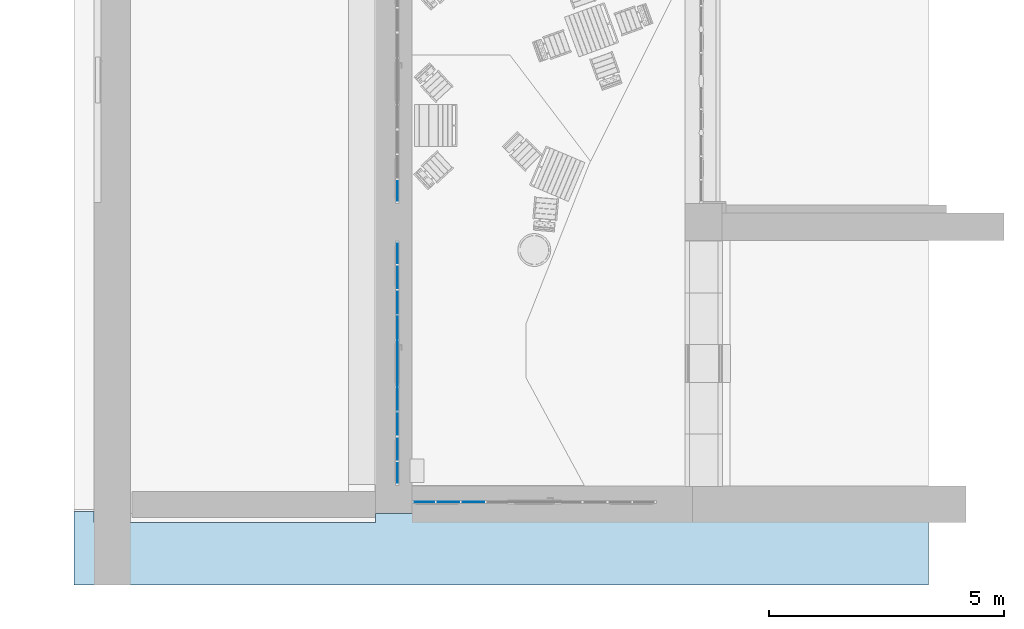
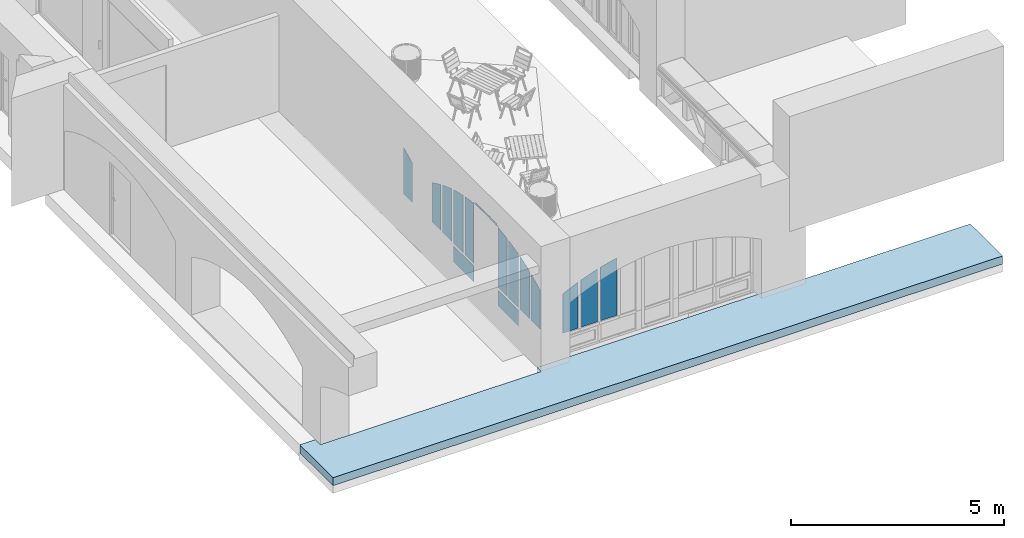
# One storey, part 50 of 88: 15 plates, 1 slab, 3 elements without a shape of their own.
"""IFC2X3 building model written with IfcOpenShell, lengths in millimetres."""

from ifc_helpers import new_model, entity, si_unit, converted_unit, derived_unit, direction, frame, frame_2d, origin, place, context, subcontext, project, spatial, polyline, circle_curve, parameter, trimmed, segment, composite_curve, rectangle, outline, extrude, face_set, surface_model, source, transform, mapped, material, layer, layer_set, layer_usage, type_object, type_shapes, element, aggregate, save


model = new_model("IFC2X3")

# Units and contexts
model_context = context("Model", 3, precision=0.01, world=origin(), true_north=direction((6.123031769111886e-17, 1.0)))
body_context = subcontext(model_context, "Body", "Model", "MODEL_VIEW")
ifc_project = project(units=[si_unit("LENGTHUNIT", "METRE", prefix="MILLI"), si_unit("AREAUNIT", "SQUARE_METRE"), si_unit("VOLUMEUNIT", "CUBIC_METRE"), converted_unit("PLANEANGLEUNIT", "DEGREE", entity("IfcPlaneAngleMeasure", 0.017453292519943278), si_unit("PLANEANGLEUNIT", "RADIAN"), dimensions=[0, 0, 0, 0, 0, 0, 0]), si_unit("MASSUNIT", "GRAM", prefix="KILO"), derived_unit("MASSDENSITYUNIT", [(si_unit("MASSUNIT", "GRAM", prefix="KILO"), 1), (si_unit("LENGTHUNIT", "METRE"), -3)]), derived_unit("IONCONCENTRATIONUNIT", [(si_unit("MASSUNIT", "GRAM", prefix="KILO"), 1), (si_unit("LENGTHUNIT", "METRE"), -3)]), derived_unit("MOMENTOFINERTIAUNIT", [(si_unit("LENGTHUNIT", "METRE"), 4)]), si_unit("TIMEUNIT", "SECOND"), si_unit("FREQUENCYUNIT", "HERTZ"), si_unit("THERMODYNAMICTEMPERATUREUNIT", "DEGREE_CELSIUS"), derived_unit("THERMALTRANSMITTANCEUNIT", [(si_unit("MASSUNIT", "GRAM", prefix="KILO"), 1), (si_unit("THERMODYNAMICTEMPERATUREUNIT", "KELVIN"), -1), (si_unit("TIMEUNIT", "SECOND"), -3)]), derived_unit("THERMALCONDUCTANCEUNIT", [(si_unit("MASSUNIT", "GRAM", prefix="KILO"), 1), (si_unit("THERMODYNAMICTEMPERATUREUNIT", "KELVIN"), -1), (si_unit("TIMEUNIT", "SECOND"), -3), (si_unit("LENGTHUNIT", "METRE"), 1)]), derived_unit("VOLUMETRICFLOWRATEUNIT", [(si_unit("LENGTHUNIT", "METRE", prefix="DECI"), 3), (si_unit("TIMEUNIT", "SECOND"), -1)]), derived_unit("MASSFLOWRATEUNIT", [(si_unit("MASSUNIT", "GRAM", prefix="KILO"), 1), (si_unit("TIMEUNIT", "SECOND"), -1)]), derived_unit("ROTATIONALFREQUENCYUNIT", [(si_unit("TIMEUNIT", "SECOND"), -1)]), si_unit("ELECTRICCURRENTUNIT", "AMPERE"), si_unit("ELECTRICVOLTAGEUNIT", "VOLT"), si_unit("POWERUNIT", "WATT"), si_unit("FORCEUNIT", "NEWTON", prefix="KILO"), si_unit("ILLUMINANCEUNIT", "LUX"), si_unit("LUMINOUSFLUXUNIT", "LUMEN"), si_unit("LUMINOUSINTENSITYUNIT", "CANDELA"), si_unit("ENERGYUNIT", "JOULE"), derived_unit("USERDEFINED", [(si_unit("MASSUNIT", "GRAM", prefix="KILO"), -1), (si_unit("LENGTHUNIT", "METRE"), -2), (si_unit("TIMEUNIT", "SECOND"), 3), (si_unit("LUMINOUSFLUXUNIT", "LUMEN"), 1)]), derived_unit("USERDEFINED", [(si_unit("MASSUNIT", "GRAM", prefix="KILO"), 1), (si_unit("TIMEUNIT", "SECOND"), -3), (si_unit("LENGTHUNIT", "METRE"), 3), (si_unit("ELECTRICCURRENTUNIT", "AMPERE"), -2)]), derived_unit("SOUNDPOWERUNIT", [(si_unit("MASSUNIT", "GRAM", prefix="KILO"), 1), (si_unit("TIMEUNIT", "SECOND"), -3), (si_unit("LENGTHUNIT", "METRE"), 2)]), derived_unit("SOUNDPRESSUREUNIT", [(si_unit("MASSUNIT", "GRAM", prefix="KILO"), 1), (si_unit("LENGTHUNIT", "METRE"), -1), (si_unit("TIMEUNIT", "SECOND"), -2)]), derived_unit("LINEARVELOCITYUNIT", [(si_unit("LENGTHUNIT", "METRE"), 1), (si_unit("TIMEUNIT", "SECOND"), -1)]), si_unit("PRESSUREUNIT", "PASCAL"), derived_unit("USERDEFINED", [(si_unit("MASSUNIT", "GRAM", prefix="KILO"), 1), (si_unit("LENGTHUNIT", "METRE"), -2), (si_unit("TIMEUNIT", "SECOND"), -2)]), derived_unit("LINEARFORCEUNIT", [(si_unit("MASSUNIT", "GRAM", prefix="KILO"), 1), (si_unit("TIMEUNIT", "SECOND"), -2)]), derived_unit("PLANARFORCEUNIT", [(si_unit("MASSUNIT", "GRAM", prefix="KILO"), 1), (si_unit("LENGTHUNIT", "METRE"), -1), (si_unit("TIMEUNIT", "SECOND"), -2)]), derived_unit("SPECIFICHEATCAPACITYUNIT", [(si_unit("THERMODYNAMICTEMPERATUREUNIT", "KELVIN"), -1), (si_unit("LENGTHUNIT", "METRE"), 2), (si_unit("TIMEUNIT", "SECOND"), -2)]), derived_unit("HEATFLUXDENSITYUNIT", [(si_unit("MASSUNIT", "GRAM", prefix="KILO"), 1), (si_unit("TIMEUNIT", "SECOND"), -3)]), derived_unit("HEATINGVALUEUNIT", [(si_unit("LENGTHUNIT", "METRE"), 2), (si_unit("TIMEUNIT", "SECOND"), -2)]), derived_unit("VAPORPERMEABILITYUNIT", [(si_unit("LENGTHUNIT", "METRE"), -1), (si_unit("TIMEUNIT", "SECOND"), 1)]), derived_unit("DYNAMICVISCOSITYUNIT", [(si_unit("MASSUNIT", "GRAM", prefix="KILO"), 1), (si_unit("TIMEUNIT", "SECOND"), -1), (si_unit("LENGTHUNIT", "METRE"), -1)]), derived_unit("THERMALEXPANSIONCOEFFICIENTUNIT", [(si_unit("THERMODYNAMICTEMPERATUREUNIT", "KELVIN"), -1)]), derived_unit("MODULUSOFELASTICITYUNIT", [(si_unit("MASSUNIT", "GRAM", prefix="KILO"), 1), (si_unit("LENGTHUNIT", "METRE"), -1), (si_unit("TIMEUNIT", "SECOND"), -2)]), derived_unit("ISOTHERMALMOISTURECAPACITYUNIT", [(si_unit("MASSUNIT", "GRAM", prefix="KILO"), -1), (si_unit("LENGTHUNIT", "METRE"), 3)]), derived_unit("MOISTUREDIFFUSIVITYUNIT", [(si_unit("TIMEUNIT", "SECOND"), -1), (si_unit("LENGTHUNIT", "METRE"), 2)]), derived_unit("MASSPERLENGTHUNIT", [(si_unit("MASSUNIT", "GRAM", prefix="KILO"), 1), (si_unit("LENGTHUNIT", "METRE"), -1)]), derived_unit("THERMALRESISTANCEUNIT", [(si_unit("MASSUNIT", "GRAM", prefix="KILO"), -1), (si_unit("TIMEUNIT", "SECOND"), 3), (si_unit("THERMODYNAMICTEMPERATUREUNIT", "KELVIN"), 1)]), derived_unit("ACCELERATIONUNIT", [(si_unit("LENGTHUNIT", "METRE"), 1), (si_unit("TIMEUNIT", "SECOND"), -2)]), derived_unit("ANGULARVELOCITYUNIT", [(si_unit("TIMEUNIT", "SECOND"), -1), (si_unit("PLANEANGLEUNIT", "RADIAN"), 1)]), derived_unit("LINEARSTIFFNESSUNIT", [(si_unit("MASSUNIT", "GRAM", prefix="KILO"), 1), (si_unit("TIMEUNIT", "SECOND"), -2)]), derived_unit("WARPINGCONSTANTUNIT", [(si_unit("LENGTHUNIT", "METRE"), 6)]), derived_unit("LINEARMOMENTUNIT", [(si_unit("MASSUNIT", "GRAM", prefix="KILO"), 1), (si_unit("LENGTHUNIT", "METRE"), 1), (si_unit("TIMEUNIT", "SECOND"), -2)]), derived_unit("TORQUEUNIT", [(si_unit("MASSUNIT", "GRAM", prefix="KILO"), 1), (si_unit("LENGTHUNIT", "METRE"), 2), (si_unit("TIMEUNIT", "SECOND"), -2)])], contexts=[model_context])

# Site, building, storey
site_placement = place(None, origin())
site = spatial("IfcSite", under=ifc_project, at=site_placement, Name="Default", CompositionType="ELEMENT")
building_placement = place(site_placement, origin())
building = spatial("IfcBuilding", under=site, at=building_placement, Name="Eesti Rahvusraamatukogu hoone renoveerimise projekteerimistööd", CompositionType="ELEMENT")
storey_placement = place(building_placement, origin())
storey = spatial("IfcBuildingStorey", under=building, at=storey_placement, Name="1. korrus", CompositionType="ELEMENT", Elevation=0.0)

# Slab
ifc_material_1 = material(Name="EST. Betoonplaat")
ifc_layer_1 = layer(ifc_material_1, 25.0)
ifc_material_2 = material(Name="EST. Betoon. Armeeritud. Kohtvalu")
ifc_layer_2 = layer(ifc_material_2, 70.0)
ifc_material_3 = material(Name="EST. Soojustus. EPS")
ifc_layer_3 = layer(ifc_material_3, 135.0)
ifc_layer_set = layer_set([ifc_layer_1, ifc_layer_2, ifc_layer_3], Name="Floor:VL-03 - fuajee põrand")
ifc_layer_usage = layer_usage(ifc_layer_set, "AXIS3", "POSITIVE", 0.0)
slab_type = type_object("IfcSlabType", Name="Floor:VL-03 - fuajee põrand", PredefinedType="FLOOR", material=ifc_layer_set)
slab_placement = place(storey_placement, origin())
element("IfcSlab", 1, at=slab_placement, inside=storey, type_object=slab_type, material=ifc_layer_usage, Name="Floor:VL-03 - fuajee põrand", ObjectType="Floor:VL-03 - fuajee põrand", PredefinedType="FLOOR", context=body_context, shape_type="SweptSolid", body=[
    extrude(outline(polyline([(-1098.9598426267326, -6251.266453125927), (458.319947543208, -6251.266453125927), (458.319947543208, -5829.638371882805), (222.31994754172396, -5829.638371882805), (222.31994754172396, 160.3616281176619), (418.3199475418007, 160.3616281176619), (418.3199475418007, 11920.5431968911), (-1098.9598426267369, 11920.5431968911), (-1098.9598426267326, -6251.266453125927)])), frame((-43530.3616281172, -222.319947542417, 0.0), z_axis=(0.0, 0.0, -1.0), x_axis=(0.0, 1.0, 0.0)), (0.0, 0.0, 1.0), 230.00000000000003),
])

# Curtain wall, plates
curtain_wall_type_1 = type_object("IfcCurtainWallType", Name="Curtain Wall:Ak-05", PredefinedType="NOTDEFINED")
curtain_wall_1_placement = place(storey_placement, origin())
curtain_wall_1 = element("IfcCurtainWall", 2, at=curtain_wall_1_placement, inside=storey, type_object=curtain_wall_type_1, Name="Curtain Wall:Ak-05", ObjectType="Curtain Wall:Ak-05")
ifc_material_4 = material(Name="EST. Klaas. 3x. Default")
plate_type_1 = type_object("IfcPlateType", Name="System Panel:Peegelaknad 6-16-4-16-4, paneel", PredefinedType="CURTAIN_PANEL", material=ifc_material_4)
shared_shape_1 = source(origin(), body_context, "Body", "SweptSolid", [
    extrude(rectangle(XDim=450.00000000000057, YDim=944.9999999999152, at=frame_2d((0.0, -5.833333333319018), x_axis=(1.0, 0.0))), frame((5.833333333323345, -5.0, 225.0), z_axis=(0.0, 1.0, 0.0), x_axis=(0.0, 0.0, 1.0)), (0.0, 0.0, 1.0), 10.0),
])
type_shapes(plate_type_1, [shared_shape_1])
plate_1_placement = place(curtain_wall_1_placement, frame((-42905.0, 4437.499999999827, 10.0), z_axis=(0.0, 0.0, 1.0), x_axis=(0.0, -1.0, 0.0)))
plate_1 = element("IfcPlate", 3, at=plate_1_placement, type_object=plate_type_1, material=ifc_material_4, Name="System Panel:Peegelaknad 6-16-4-16-4, paneel", ObjectType="System Panel:Peegelaknad 6-16-4-16-4, paneel", context=body_context, shape_type="MappedRepresentation", body=[
    mapped(shared_shape_1, transform((0.0, 0.0, 0.0), scale=1.0)),
])
plate_type_2 = type_object("IfcPlateType", Name="System Panel:Peegelaknad 6-16-4-16-4, paneel", PredefinedType="CURTAIN_PANEL", material=ifc_material_4)
shared_shape_2 = source(origin(), body_context, "Body", "SweptSolid", [
    extrude(rectangle(XDim=450.00000000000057, YDim=945.0000000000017, at=frame_2d((0.0, 5.833333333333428), x_axis=(1.0, 0.0))), frame((-5.8333333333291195, -5.0, 225.0), z_axis=(0.0, 1.0, 0.0), x_axis=(0.0, 0.0, 1.0)), (0.0, 0.0, 1.0), 10.0),
])
type_shapes(plate_type_2, [shared_shape_2])
plate_2_placement = place(curtain_wall_1_placement, frame((-42905.0, 2342.4999999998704, 10.0), z_axis=(0.0, 0.0, 1.0), x_axis=(0.0, -1.0, 0.0)))
plate_2 = element("IfcPlate", 4, at=plate_2_placement, type_object=plate_type_2, material=ifc_material_4, Name="System Panel:Peegelaknad 6-16-4-16-4, paneel", ObjectType="System Panel:Peegelaknad 6-16-4-16-4, paneel", context=body_context, shape_type="MappedRepresentation", body=[
    mapped(shared_shape_2, transform((0.0, 0.0, 0.0), scale=1.0)),
])
plate_type_3 = type_object("IfcPlateType", Name="System Panel:Peegelaknad 6-16-4-16-4, paneel", PredefinedType="CURTAIN_PANEL", material=ifc_material_4)
shared_shape_3 = source(origin(), body_context, "Body", "SweptSolid", [
    extrude(outline(composite_curve([segment(polyline([(-610.3301409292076, -205.0), (513.3133718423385, -205.0)]), True, "CONTINUOUS"), segment(trimmed(circle_curve(frame_2d((-4323.610707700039, 2335.0), x_axis=(0.9256428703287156, -0.37839830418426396)), 5463.280566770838), [parameter(354.5293230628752)], [parameter(359.2877436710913)], True, "PARAMETER"), True, "CONTINUOUS"), segment(polyline([(707.3469100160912, 205.0), (-610.3301409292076, 205.0)]), True, "CONTINUOUS"), segment(polyline([(-610.3301409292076, 205.0), (-610.3301409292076, -205.0)]), True, "CONTINUOUS")], self_intersect=False)), frame((0.0, -5.0, 610.3301409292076), z_axis=(0.0, 1.0, 0.0), x_axis=(0.0, 0.0, 1.0)), (0.0, 0.0, 1.0), 10.0),
])
type_shapes(plate_type_3, [shared_shape_3])
plate_3_placement = place(curtain_wall_1_placement, frame((-42905.0, 5725.0, 540.0), z_axis=(0.0, 0.0, 1.0), x_axis=(0.0, -1.0, 0.0)))
plate_3 = element("IfcPlate", 5, at=plate_3_placement, type_object=plate_type_3, material=ifc_material_4, Name="System Panel:Peegelaknad 6-16-4-16-4, paneel", ObjectType="System Panel:Peegelaknad 6-16-4-16-4, paneel", context=body_context, shape_type="MappedRepresentation", body=[
    mapped(shared_shape_3, transform((0.0, 0.0, 0.0), scale=1.0)),
])
plate_type_4 = type_object("IfcPlateType", Name="System Panel:Peegelaknad 6-16-4-16-4, paneel", PredefinedType="CURTAIN_PANEL", material=ifc_material_4)
shared_shape_4 = source(origin(), body_context, "Body", "SweptSolid", [
    extrude(outline(composite_curve([segment(polyline([(-715.3148161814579, -225.0), (635.487411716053, -225.0)]), True, "CONTINUOUS"), segment(trimmed(circle_curve(frame_2d((-4428.595382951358, 1825.0), x_axis=(0.9592847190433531, -0.2824408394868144)), 5463.280566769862), [parameter(354.3672571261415)], [parameter(359.3764184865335)], True, "PARAMETER"), True, "CONTINUOUS"), segment(polyline([(795.1422206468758, 225.0), (-715.3148161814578, 225.0)]), True, "CONTINUOUS"), segment(polyline([(-715.3148161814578, 225.0), (-715.3148161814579, -225.0)]), True, "CONTINUOUS")], self_intersect=False)), frame((0.0, -5.0, 715.3148161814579), z_axis=(0.0, 1.0, 0.0), x_axis=(0.0, 0.0, 1.0)), (0.0, 0.0, 1.0), 10.0),
])
type_shapes(plate_type_4, [shared_shape_4])
plate_4_placement = place(curtain_wall_1_placement, frame((-42905.0, 5215.0, 540.0), z_axis=(0.0, 0.0, 1.0), x_axis=(0.0, -1.0, 0.0)))
plate_4 = element("IfcPlate", 6, at=plate_4_placement, type_object=plate_type_4, material=ifc_material_4, Name="System Panel:Peegelaknad 6-16-4-16-4, paneel", ObjectType="System Panel:Peegelaknad 6-16-4-16-4, paneel", context=body_context, shape_type="MappedRepresentation", body=[
    mapped(shared_shape_4, transform((0.0, 0.0, 0.0), scale=1.0)),
])
plate_type_5 = type_object("IfcPlateType", Name="System Panel:Peegelaknad 6-16-4-16-4, paneel", PredefinedType="CURTAIN_PANEL", material=ifc_material_4)
shared_shape_5 = source(origin(), body_context, "Body", "SweptSolid", [
    extrude(outline(composite_curve([segment(polyline([(-794.6219170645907, -225.0), (739.6716748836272, -225.0)]), True, "CONTINUOUS"), segment(trimmed(circle_curve(frame_2d((-4507.902483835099, 1295.0), x_axis=(0.9824581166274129, -0.18648337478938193)), 5463.2805667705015), [parameter(354.5935648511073)], [parameter(359.45306970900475)], True, "PARAMETER"), True, "CONTINUOUS"), segment(polyline([(849.5721592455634, 225.0), (-794.6219170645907, 225.0)]), True, "CONTINUOUS"), segment(polyline([(-794.6219170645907, 225.0), (-794.6219170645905, -225.0)]), True, "CONTINUOUS")], self_intersect=False)), frame((0.0, -5.0, 794.6219170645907), z_axis=(0.0, 1.0, 0.0), x_axis=(0.0, 0.0, 1.0)), (0.0, 0.0, 1.0), 10.0),
])
type_shapes(plate_type_5, [shared_shape_5])
plate_5_placement = place(curtain_wall_1_placement, frame((-42905.0, 4685.0, 540.0), z_axis=(0.0, 0.0, 1.0), x_axis=(0.0, -1.0, 0.0)))
plate_5 = element("IfcPlate", 7, at=plate_5_placement, type_object=plate_type_5, material=ifc_material_4, Name="System Panel:Peegelaknad 6-16-4-16-4, paneel", ObjectType="System Panel:Peegelaknad 6-16-4-16-4, paneel", context=body_context, shape_type="MappedRepresentation", body=[
    mapped(shared_shape_5, transform((0.0, 0.0, 0.0), scale=1.0)),
])
plate_type_6 = type_object("IfcPlateType", Name="System Panel:Peegelaknad 6-16-4-16-4, paneel", PredefinedType="CURTAIN_PANEL", material=ifc_material_4)
shared_shape_6 = source(origin(), body_context, "Body", "SurfaceModel", [
    surface_model("IfcFaceBasedSurfaceModel", [(-245.0, -5.0, 0.0), (170.0, -5.0, 0.0), (170.0, -5.0, 1750.0), (245.0, -5.0, 1750.0), (245.0, -5.0, 1727.0718621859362), (93.20177957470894, -5.0, 1710.979164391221), (-58.08758672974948, -5.0, 1690.6517865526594), (-151.67863011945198, -5.0, 1675.9125069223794), (-245.0, -5.0, 1659.5524430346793), (-245.0, 5.0, 0.0), (-245.0, 5.0, 1659.5524430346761), (-151.67863011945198, 5.0, 1675.9125069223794), (-58.08758672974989, 5.0, 1690.6517865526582), (93.20177957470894, 5.0, 1710.979164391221), (245.0, 5.0, 1727.071862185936), (245.0, 5.0, 1750.0), (170.0, 5.0, 1750.0), (170.0, 5.0, 0.0)], [face_set([[[0, 1, 2, 3, 4, 5, 6, 7, 8]], [[9, 10, 11, 12, 13, 14, 15, 16, 17]], [[1, 0, 9, 17]], [[2, 1, 17, 16]], [[3, 15, 16, 2]], [[4, 14, 15, 3]], [[5, 4, 14, 13]], [[12, 6, 5, 13]], [[7, 6, 12, 11]], [[10, 8, 7, 11]], [[0, 8, 10, 9]]])]),
])
type_shapes(plate_type_6, [shared_shape_6])
plate_6_placement = place(curtain_wall_1_placement, frame((-42905.0, 4135.0, 540.0), z_axis=(0.0, 0.0, 1.0), x_axis=(0.0, -1.0, 0.0)))
plate_6 = element("IfcPlate", 8, at=plate_6_placement, type_object=plate_type_6, material=ifc_material_4, Name="System Panel:Peegelaknad 6-16-4-16-4, paneel", ObjectType="System Panel:Peegelaknad 6-16-4-16-4, paneel", context=body_context, shape_type="MappedRepresentation", body=[
    mapped(shared_shape_6, transform((0.0, 0.0, 0.0), scale=1.0)),
])
plate_type_7 = type_object("IfcPlateType", Name="System Panel:Peegelaknad 6-16-4-16-4, paneel", PredefinedType="CURTAIN_PANEL", material=ifc_material_4)
shared_shape_7 = source(origin(), body_context, "Body", "SurfaceModel", [
    surface_model("IfcFaceBasedSurfaceModel", [(-170.0, -5.0, 0.0), (245.0, -5.0, 0.0), (245.0, -5.0, 1659.5524430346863), (151.67863011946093, -5.0, 1675.9125069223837), (58.08758672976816, -5.0, 1690.6517865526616), (-93.2017795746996, -5.0, 1710.979164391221), (-245.0, -5.0, 1727.071862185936), (-245.0, -5.0, 1750.0), (-170.0, -5.0, 1750.0), (-170.0, 5.0, 0.0), (245.0, 5.0, 0.0), (245.0, 5.0, 1659.552443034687), (151.67863011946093, 5.0, 1675.9125069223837), (58.08758672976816, 5.0, 1690.6517865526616), (-93.2017795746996, 5.0, 1710.979164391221), (-245.0, 5.0, 1727.071862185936), (-245.0, 5.0, 1750.0), (-170.0, 5.0, 1750.0)], [face_set([[[0, 1, 2, 3, 4, 5, 6, 7, 8]], [[9, 10, 11, 12, 13, 14, 15, 16, 17]], [[1, 0, 9, 10]], [[2, 1, 10, 11]], [[3, 2, 11, 12]], [[13, 4, 3, 12]], [[4, 13, 14, 5]], [[15, 6, 5, 14]], [[7, 16, 15, 6]], [[8, 17, 16, 7]], [[0, 8, 17, 9]]])]),
])
type_shapes(plate_type_7, [shared_shape_7])
plate_7_placement = place(curtain_wall_1_placement, frame((-42905.0, 2645.0, 540.0), z_axis=(0.0, 0.0, 1.0), x_axis=(0.0, -1.0, 0.0)))
plate_7 = element("IfcPlate", 9, at=plate_7_placement, type_object=plate_type_7, material=ifc_material_4, Name="System Panel:Peegelaknad 6-16-4-16-4, paneel", ObjectType="System Panel:Peegelaknad 6-16-4-16-4, paneel", context=body_context, shape_type="MappedRepresentation", body=[
    mapped(shared_shape_7, transform((0.0, 0.0, 0.0), scale=1.0)),
])
plate_type_8 = type_object("IfcPlateType", Name="System Panel:Peegelaknad 6-16-4-16-4, paneel", PredefinedType="CURTAIN_PANEL", material=ifc_material_4)
shared_shape_8 = source(origin(), body_context, "Body", "SweptSolid", [
    extrude(outline(composite_curve([segment(polyline([(-794.621917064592, 225.0), (-794.621917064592, -225.0)]), True, "CONTINUOUS"), segment(polyline([(-794.621917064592, -225.0), (739.6716748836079, -225.0)]), True, "CONTINUOUS"), segment(trimmed(circle_curve(frame_2d((-4507.902483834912, 1295.0), x_axis=(0.9592847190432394, -0.2824408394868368)), 5463.280566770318), [parameter(0.25187197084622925)], [parameter(5.111376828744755)], True, "PARAMETER"), True, "CONTINUOUS"), segment(polyline([(849.5721592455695, 225.0), (-794.621917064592, 225.0)]), True, "CONTINUOUS")], self_intersect=False)), frame((0.0, -5.0, 794.621917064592), z_axis=(0.0, -1.0, 0.0), x_axis=(0.0, 0.0, 1.0)), (0.0, 0.0, -1.0), 10.0),
])
type_shapes(plate_type_8, [shared_shape_8])
plate_8_placement = place(curtain_wall_1_placement, frame((-42905.0, 2095.0, 540.0), z_axis=(0.0, 0.0, 1.0), x_axis=(0.0, -1.0, 0.0)))
plate_8 = element("IfcPlate", 10, at=plate_8_placement, type_object=plate_type_8, material=ifc_material_4, Name="System Panel:Peegelaknad 6-16-4-16-4, paneel", ObjectType="System Panel:Peegelaknad 6-16-4-16-4, paneel", context=body_context, shape_type="MappedRepresentation", body=[
    mapped(shared_shape_8, transform((0.0, 0.0, 0.0), scale=1.0)),
])
plate_type_9 = type_object("IfcPlateType", Name="System Panel:Peegelaknad 6-16-4-16-4, paneel", PredefinedType="CURTAIN_PANEL", material=ifc_material_4)
shared_shape_9 = source(origin(), body_context, "Body", "SweptSolid", [
    extrude(outline(composite_curve([segment(polyline([(-715.3148161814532, 225.0), (-715.3148161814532, -225.0)]), True, "CONTINUOUS"), segment(polyline([(-715.3148161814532, -225.0), (635.4874117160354, -225.0)]), True, "CONTINUOUS"), segment(trimmed(circle_curve(frame_2d((-4428.59538295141, 1825.0), x_axis=(0.9256428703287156, -0.3783983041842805)), 5463.280566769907), [parameter(0.19582649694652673)], [parameter(5.204987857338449)], True, "PARAMETER"), True, "CONTINUOUS"), segment(polyline([(795.1422206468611, 225.0), (-715.3148161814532, 225.0)]), True, "CONTINUOUS")], self_intersect=False)), frame((0.0, -5.0, 715.3148161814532), z_axis=(0.0, -1.0, 0.0), x_axis=(0.0, 0.0, 1.0)), (0.0, 0.0, -1.0), 10.0),
])
type_shapes(plate_type_9, [shared_shape_9])
plate_9_placement = place(curtain_wall_1_placement, frame((-42905.0, 1565.0, 540.0), z_axis=(0.0, 0.0, 1.0), x_axis=(0.0, -1.0, 0.0)))
plate_9 = element("IfcPlate", 11, at=plate_9_placement, type_object=plate_type_9, material=ifc_material_4, Name="System Panel:Peegelaknad 6-16-4-16-4, paneel", ObjectType="System Panel:Peegelaknad 6-16-4-16-4, paneel", context=body_context, shape_type="MappedRepresentation", body=[
    mapped(shared_shape_9, transform((0.0, 0.0, 0.0), scale=1.0)),
])

# Curtain wall, plate
curtain_wall_type_2 = type_object("IfcCurtainWallType", Name="Curtain Wall:Ak-05*", PredefinedType="NOTDEFINED")
curtain_wall_2_placement = place(storey_placement, origin())
curtain_wall_2 = element("IfcCurtainWall", 12, at=curtain_wall_2_placement, inside=storey, type_object=curtain_wall_type_2, Name="Curtain Wall:Ak-05*", ObjectType="Curtain Wall:Ak-05*")
plate_type_10 = type_object("IfcPlateType", Name="System Panel:Peegelaknad 6-16-4-16-4, paneel", PredefinedType="CURTAIN_PANEL", material=ifc_material_4)
shared_shape_10 = source(origin(), body_context, "Body", "SweptSolid", [
    extrude(outline(composite_curve([segment(polyline([(-610.3301409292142, 205.0), (-610.3301409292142, -205.0)]), True, "CONTINUOUS"), segment(polyline([(-610.3301409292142, -205.0), (513.3133718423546, -205.0)]), True, "CONTINUOUS"), segment(trimmed(circle_curve(frame_2d((-4323.610707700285, 2335.0), x_axis=(0.8822747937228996, -0.4707347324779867)), 5463.280566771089), [parameter(0.37681807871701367)], [parameter(5.135238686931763)], True, "PARAMETER"), True, "CONTINUOUS"), segment(polyline([(707.3469100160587, 205.0), (-610.3301409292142, 205.0)]), True, "CONTINUOUS")], self_intersect=False)), frame((0.0, -5.0, 610.3301409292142), z_axis=(0.0, -1.0, 0.0), x_axis=(0.0, 0.0, 1.0)), (0.0, 0.0, -1.0), 10.0),
])
type_shapes(plate_type_10, [shared_shape_10])
plate_10_placement = place(curtain_wall_2_placement, frame((-42905.0, 7055.0, 540.0), z_axis=(0.0, 0.0, 1.0), x_axis=(0.0, -1.0, 0.0)))
plate_10 = element("IfcPlate", 13, at=plate_10_placement, type_object=plate_type_10, material=ifc_material_4, Name="System Panel:Peegelaknad 6-16-4-16-4, paneel", ObjectType="System Panel:Peegelaknad 6-16-4-16-4, paneel", context=body_context, shape_type="MappedRepresentation", body=[
    mapped(shared_shape_10, transform((0.0, 0.0, 0.0), scale=1.0)),
])
aggregate(curtain_wall_2, [plate_10])

# Plate
plate_11_placement = place(curtain_wall_1_placement, frame((-42905.0, 1055.0, 540.0), z_axis=(0.0, 0.0, 1.0), x_axis=(0.0, -1.0, 0.0)))
plate_11 = element("IfcPlate", 14, at=plate_11_placement, type_object=plate_type_10, material=ifc_material_4, Name="System Panel:Peegelaknad 6-16-4-16-4, paneel", ObjectType="System Panel:Peegelaknad 6-16-4-16-4, paneel", context=body_context, shape_type="MappedRepresentation", body=[
    mapped(shared_shape_10, transform((0.0, 0.0, 0.0), scale=1.0)),
])

ifc_material_5 = material(Name="<Unnamed>")
plate_type_11 = type_object("IfcPlateType", Name="System Panel:Peegelaknad 6-16-4-16-4, paneel", PredefinedType="CURTAIN_PANEL", material=ifc_material_5)
shared_shape_11 = source(origin(), body_context, "Body", "SweptSolid", [
    extrude(outline(composite_curve([segment(polyline([(18.907544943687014, -500.34273422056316), (71.61836514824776, -495.5513663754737)]), True, "CONTINUOUS"), segment(polyline([(71.61836514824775, -495.5513663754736), (-18.907544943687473, 500.3427342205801)]), True, "CONTINUOUS"), segment(polyline([(-18.907544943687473, 500.3427342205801), (-71.61836514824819, 495.5513663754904)]), True, "CONTINUOUS"), segment(trimmed(circle_curve(frame_2d((-5444.3702992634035, -494.8885387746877), x_axis=(1.0, 0.0)), 5463.280566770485), [parameter(359.94279949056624)], [parameter(10.444926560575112)], True, "PARAMETER"), False, "CONTINUOUS")], self_intersect=False)), frame((0.0, -5.0, 26.46406890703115), z_axis=(0.0, -1.0, 0.0), x_axis=(0.0905259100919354, 0.0, 0.9958941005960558)), (0.0, 0.0, -1.0), 10.0),
])
type_shapes(plate_type_11, [shared_shape_11])
plate_12_placement = place(curtain_wall_1_placement, frame((-42905.0, 3390.0, 2267.0718621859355), z_axis=(0.0, 0.0, 1.0), x_axis=(0.0, -1.0, 0.0)))
plate_12 = element("IfcPlate", 15, at=plate_12_placement, type_object=plate_type_11, material=ifc_material_5, Name="System Panel:Peegelaknad 6-16-4-16-4, paneel", ObjectType="System Panel:Peegelaknad 6-16-4-16-4, paneel", context=body_context, shape_type="MappedRepresentation", body=[
    mapped(shared_shape_11, transform((0.0, 0.0, 0.0), scale=1.0)),
])

aggregate(curtain_wall_1, [plate_1, plate_2, plate_3, plate_4, plate_5, plate_6, plate_7, plate_8, plate_9, plate_11, plate_12])

# Curtain wall, plates
curtain_wall_3_placement = place(storey_placement, origin())
curtain_wall_3 = element("IfcCurtainWall", 16, at=curtain_wall_3_placement, inside=storey, type_object=curtain_wall_type_1, Name="Curtain Wall:Ak-05", ObjectType="Curtain Wall:Ak-05")
plate_type_12 = type_object("IfcPlateType", Name="System Panel:Peegelaknad 6-16-4-16-4, paneel", PredefinedType="CURTAIN_PANEL", material=ifc_material_4)
shared_shape_12 = source(origin(), body_context, "Body", "SweptSolid", [
    extrude(outline(composite_curve([segment(polyline([(-794.621917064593, 225.0), (-794.621917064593, -225.0)]), True, "CONTINUOUS"), segment(polyline([(-794.621917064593, -225.0), (739.6716748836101, -225.0)]), True, "CONTINUOUS"), segment(trimmed(circle_curve(frame_2d((-4507.902483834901, 1295.0), x_axis=(0.9592847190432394, -0.2824408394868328)), 5463.280566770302), [parameter(0.25187197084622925)], [parameter(5.111376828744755)], True, "PARAMETER"), True, "CONTINUOUS"), segment(polyline([(849.5721592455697, 225.0), (-794.621917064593, 225.0)]), True, "CONTINUOUS")], self_intersect=False)), frame((0.0, -5.0, 794.621917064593), z_axis=(0.0, -1.0, 0.0), x_axis=(0.0, 0.0, 1.0)), (0.0, 0.0, -1.0), 10.0),
])
type_shapes(plate_type_12, [shared_shape_12])
plate_13_placement = place(curtain_wall_3_placement, frame((-41285.0, 440.0, 540.0), z_axis=(0.0, 0.0, 1.0), x_axis=(-1.0, 0.0, 0.0)))
plate_13 = element("IfcPlate", 17, at=plate_13_placement, type_object=plate_type_12, material=ifc_material_4, Name="System Panel:Peegelaknad 6-16-4-16-4, paneel", ObjectType="System Panel:Peegelaknad 6-16-4-16-4, paneel", context=body_context, shape_type="MappedRepresentation", body=[
    mapped(shared_shape_12, transform((0.0, 0.0, 0.0), scale=1.0)),
])
plate_type_13 = type_object("IfcPlateType", Name="System Panel:Peegelaknad 6-16-4-16-4, paneel", PredefinedType="CURTAIN_PANEL", material=ifc_material_4)
shared_shape_13 = source(origin(), body_context, "Body", "SweptSolid", [
    extrude(outline(composite_curve([segment(polyline([(-715.314816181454, 225.0), (-715.314816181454, -225.0)]), True, "CONTINUOUS"), segment(polyline([(-715.314816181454, -225.0), (635.4874117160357, -225.0)]), True, "CONTINUOUS"), segment(trimmed(circle_curve(frame_2d((-4428.595382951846, 1825.0), x_axis=(0.9256428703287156, -0.37839830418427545)), 5463.280566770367), [parameter(0.19582649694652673)], [parameter(5.204987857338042)], True, "PARAMETER"), True, "CONTINUOUS"), segment(polyline([(795.1422206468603, 225.0), (-715.314816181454, 225.0)]), True, "CONTINUOUS")], self_intersect=False)), frame((0.0, -5.0, 715.314816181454), z_axis=(0.0, -1.0, 0.0), x_axis=(0.0, 0.0, 1.0)), (0.0, 0.0, -1.0), 10.0),
])
type_shapes(plate_type_13, [shared_shape_13])
plate_14_placement = place(curtain_wall_3_placement, frame((-41815.0, 440.0, 540.0), z_axis=(0.0, 0.0, 1.0), x_axis=(-1.0, 0.0, 0.0)))
plate_14 = element("IfcPlate", 18, at=plate_14_placement, type_object=plate_type_13, material=ifc_material_4, Name="System Panel:Peegelaknad 6-16-4-16-4, paneel", ObjectType="System Panel:Peegelaknad 6-16-4-16-4, paneel", context=body_context, shape_type="MappedRepresentation", body=[
    mapped(shared_shape_13, transform((0.0, 0.0, 0.0), scale=1.0)),
])
plate_type_14 = type_object("IfcPlateType", Name="System Panel:Peegelaknad 6-16-4-16-4, paneel", PredefinedType="CURTAIN_PANEL", material=ifc_material_4)
shared_shape_14 = source(origin(), body_context, "Body", "SweptSolid", [
    extrude(outline(composite_curve([segment(polyline([(-610.3301409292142, 205.0), (-610.3301409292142, -205.0)]), True, "CONTINUOUS"), segment(polyline([(-610.3301409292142, -205.0), (513.3133718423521, -205.0)]), True, "CONTINUOUS"), segment(trimmed(circle_curve(frame_2d((-4323.61070769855, 2335.0), x_axis=(0.8822747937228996, -0.4707347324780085)), 5463.280566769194), [parameter(0.3768180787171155)], [parameter(5.135238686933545)], True, "PARAMETER"), True, "CONTINUOUS"), segment(polyline([(707.3469100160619, 205.0), (-610.3301409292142, 205.0)]), True, "CONTINUOUS")], self_intersect=False)), frame((0.0, -5.0, 610.3301409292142), z_axis=(0.0, -1.0, 0.0), x_axis=(0.0, 0.0, 1.0)), (0.0, 0.0, -1.0), 10.0),
])
type_shapes(plate_type_14, [shared_shape_14])
plate_15_placement = place(curtain_wall_3_placement, frame((-42325.0, 440.0, 540.0), z_axis=(0.0, 0.0, 1.0), x_axis=(-1.0, 0.0, 0.0)))
plate_15 = element("IfcPlate", 19, at=plate_15_placement, type_object=plate_type_14, material=ifc_material_4, Name="System Panel:Peegelaknad 6-16-4-16-4, paneel", ObjectType="System Panel:Peegelaknad 6-16-4-16-4, paneel", context=body_context, shape_type="MappedRepresentation", body=[
    mapped(shared_shape_14, transform((0.0, 0.0, 0.0), scale=1.0)),
])
aggregate(curtain_wall_3, [plate_13, plate_14, plate_15])

save(model, "model.ifc")
